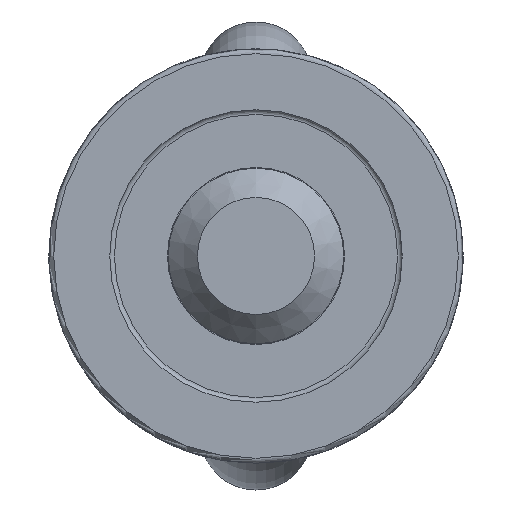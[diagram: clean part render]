
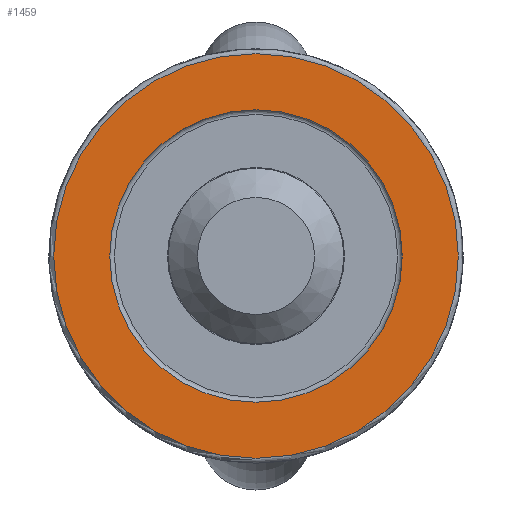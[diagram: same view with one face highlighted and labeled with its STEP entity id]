
A CAD part, front view. The second image highlights one B-rep face of the part: STEP entity #1459.
In plain terms, the highlighted planar face has unit normal (0, -1, 0).
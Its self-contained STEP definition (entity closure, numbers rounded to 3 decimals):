
#1459=ADVANCED_FACE('',(#2451,#2452),#2228,.T.);
#2228=PLANE('',#13900);
#2451=FACE_BOUND('',#2512,.T.);
#2452=FACE_BOUND('',#2513,.T.);
#2512=EDGE_LOOP('',(#4609));
#2513=EDGE_LOOP('',(#4610));
#4609=ORIENTED_EDGE('',*,*,#9453,.T.);
#4610=ORIENTED_EDGE('',*,*,#9454,.T.);
#8327=VERTEX_POINT('',#22892);
#8328=VERTEX_POINT('',#22894);
#9453=EDGE_CURVE('',#8327,#8327,#11233,.T.);
#9454=EDGE_CURVE('',#8328,#8328,#11234,.T.);
#11233=CIRCLE('',#13898,30.);
#11234=CIRCLE('',#13899,41.5);
#13898=AXIS2_PLACEMENT_3D('',#22891,#15091,#15092);
#13899=AXIS2_PLACEMENT_3D('',#22893,#15093,#15094);
#13900=AXIS2_PLACEMENT_3D('',#22895,#15095,#15096);
#15091=DIRECTION('',(0.,1.,0.));
#15092=DIRECTION('',(0.,0.,-1.));
#15093=DIRECTION('',(0.,-1.,0.));
#15094=DIRECTION('',(0.,0.,-1.));
#15095=DIRECTION('',(0.,-1.,0.));
#15096=DIRECTION('',(0.,0.,-1.));
#22891=CARTESIAN_POINT('',(0.,-21.,0.));
#22892=CARTESIAN_POINT('',(0.,-21.,-30.));
#22893=CARTESIAN_POINT('',(0.,-21.,0.));
#22894=CARTESIAN_POINT('',(0.,-21.,-41.5));
#22895=CARTESIAN_POINT('',(-42.5,-21.,0.));
